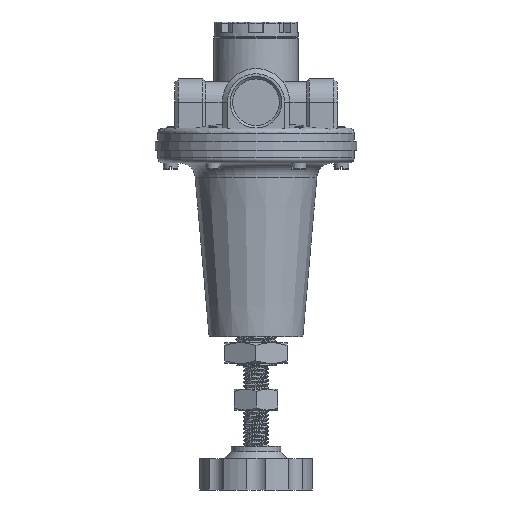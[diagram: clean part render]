
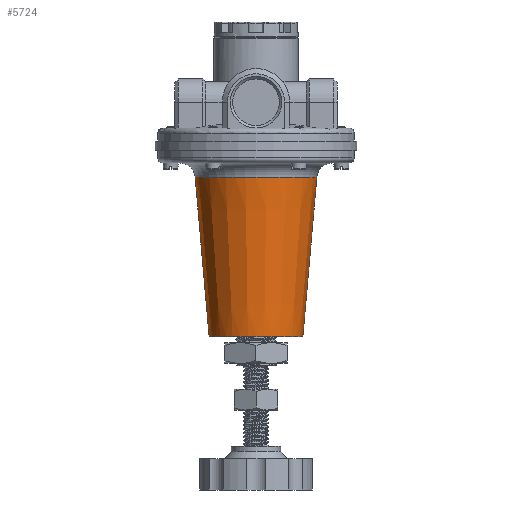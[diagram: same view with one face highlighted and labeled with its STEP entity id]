
A CAD part, front view. The second image highlights one B-rep face of the part: STEP entity #5724.
In plain terms, the highlighted conical face has half-angle 5 degrees and reference radius 24 mm.
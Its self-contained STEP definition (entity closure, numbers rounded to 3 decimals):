
#297=CONICAL_SURFACE('',#6106,24.,0.087);
#371=FACE_OUTER_BOUND('',#678,.T.);
#678=EDGE_LOOP('',(#3888,#3889,#3890,#3891));
#992=CIRCLE('',#6107,23.521);
#993=CIRCLE('',#6108,18.13);
#1593=LINE('',#14966,#1880);
#1880=VECTOR('',#6739,24.);
#2211=VERTEX_POINT('',#14963);
#2212=VERTEX_POINT('',#14965);
#2877=EDGE_CURVE('',#2211,#2211,#992,.T.);
#2878=EDGE_CURVE('',#2211,#2212,#1593,.T.);
#2879=EDGE_CURVE('',#2212,#2212,#993,.F.);
#3888=ORIENTED_EDGE('',*,*,#2877,.F.);
#3889=ORIENTED_EDGE('',*,*,#2878,.T.);
#3890=ORIENTED_EDGE('',*,*,#2879,.F.);
#3891=ORIENTED_EDGE('',*,*,#2878,.F.);
#5724=ADVANCED_FACE('',(#371),#297,.T.);
#6106=AXIS2_PLACEMENT_3D('',#14962,#6735,#6736);
#6107=AXIS2_PLACEMENT_3D('',#14964,#6737,#6738);
#6108=AXIS2_PLACEMENT_3D('',#14967,#6740,#6741);
#6735=DIRECTION('center_axis',(0.,0.,1.));
#6736=DIRECTION('ref_axis',(1.,0.,0.));
#6737=DIRECTION('center_axis',(0.,0.,1.));
#6738=DIRECTION('ref_axis',(1.,0.,0.));
#6739=DIRECTION('',(0.087,0.,-0.996));
#6740=DIRECTION('center_axis',(0.,0.,1.));
#6741=DIRECTION('ref_axis',(1.,0.,0.));
#14962=CARTESIAN_POINT('Origin',(0.,0.,-8.5));
#14963=CARTESIAN_POINT('',(-23.521,0.,-13.977));
#14964=CARTESIAN_POINT('Origin',(0.,0.,-13.977));
#14965=CARTESIAN_POINT('',(-18.13,0.,-75.6));
#14966=CARTESIAN_POINT('',(-24.,0.,-8.5));
#14967=CARTESIAN_POINT('Origin',(0.,0.,-75.6));
